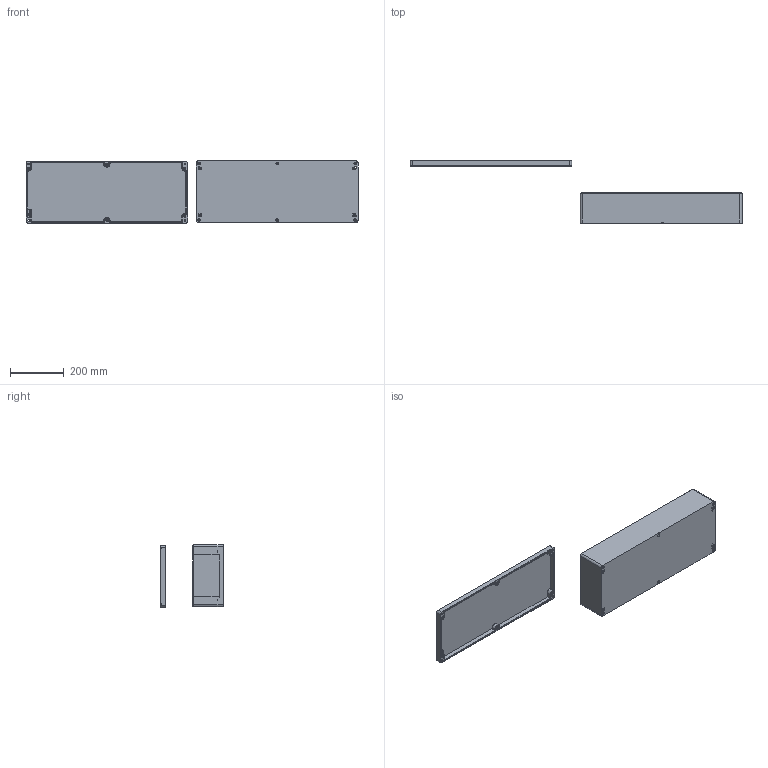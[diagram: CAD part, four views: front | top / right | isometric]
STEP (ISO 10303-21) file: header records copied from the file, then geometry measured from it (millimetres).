
FILE_DESCRIPTION (( 'STEP AP203' ), '1' );
FILE_NAME ('ZX-AL-236013_装配体.STEP', '2022-01-24T09:55:10', ( '微软用户' ), ( '微软中国' ), 'SwSTEP 2.0', 'SolidWorks 2020', '' );
FILE_SCHEMA (( 'CONFIG_CONTROL_DESIGN' ));
Length unit declared in the file: millimetre
Products named in the file (3): ZX-AL-236013_蚾饜极; ZX-AL-236013_奻; ZX-AL-236013_狟
Assembly tree (2 placements, depth 2):
  ZX-AL-236013_蚾饜极
    ZX-AL-236013_狟
    ZX-AL-236013_奻
Bounding box: 1232.64 x 233.38 x 231.63 mm (x, y, z)
Volume: 2232851.3 mm3; surface area: 1022800.8 mm2
Topology: 2 solids, 2 shells, 775 faces, 2092 edges, 1357 vertices
Faces by surface type: plane 376, cylinder 220, bspline 123, cone 56
Entity records: 30045 total; most frequent: CARTESIAN_POINT 10858, ORIENTED_EDGE 4140, DIRECTION 3540, EDGE_CURVE 2070, VECTOR 1374, LINE 1374, VERTEX_POINT 1357, AXIS2_PLACEMENT_3D 1083
